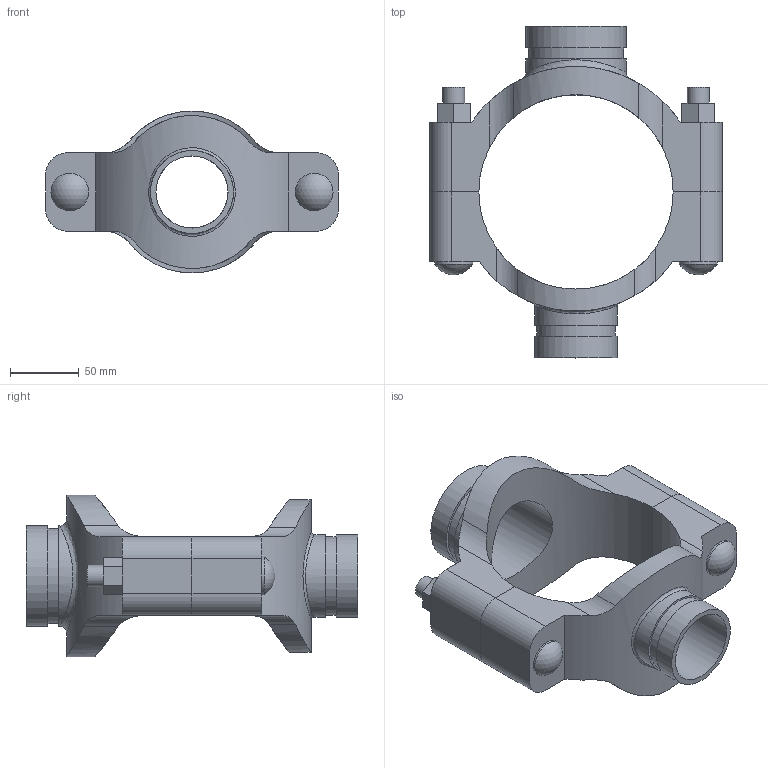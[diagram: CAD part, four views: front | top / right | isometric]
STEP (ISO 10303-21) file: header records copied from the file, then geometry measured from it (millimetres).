
FILE_DESCRIPTION(/* description */ ('VIC MECH-T BRANCH OUTLET CROSS STYLE 920N (GRVD)','CAx-IF Rec.Pracs.---Representation and Presentation of Product Manufacturing Information (PMI)---4.0---2014-10-13'),/* implementation_level */ '2;1');
FILE_NAME(/* name */ 'C:\Users\Vjadhav\AppData\Roaming\Autodesk\ApplicationPlugins\Back Up\Victaulic_IPS_Mechanical-Cross Outlet_Style 920N (OGS)\Victaulic_IPS_Mechanical-Cross Outlet_05.0x02.5x02.0 (125x65x50).stp',/* time_stamp */ '2020-08-06T19:44:22+05:00',/* author */ ('Vjadhav'),/* organization */ ('Victaulic'),/* preprocessor_version */ 'ST-DEVELOPER v17.2',/* originating_system */ 'Autodesk Inventor 2019',/* authorisation */ '');
FILE_SCHEMA (('AP242_MANAGED_MODEL_BASED_3D_ENGINEERING_MIM_LF { 1 0 10303 442 1 1 4 }'));
Length unit declared in the file: inch
Products named in the file (3): 920NG-05.0x02.5x02.0; 920G-05.0x02.5; 920G-05.0x02.0
Assembly tree (2 placements, depth 2):
  920NG-05.0x02.5x02.0
    920G-05.0x02.5
    920G-05.0x02.0
Bounding box: 212.85 x 241.3 x 117.56 mm (x, y, z)
Volume: 880246.2 mm3; surface area: 166678.2 mm2
Topology: 2 solids, 2 shells, 106 faces, 268 edges, 182 vertices
Faces by surface type: plane 54, cylinder 48, sphere 2, bspline 2
Full cylindrical faces by diameter (mm): 15.875 x4, 27.381 x2, 52.387 x1, 57.15 x1, 60.325 x2, 62.738 x1, 69.088 x1, 73.025 x2
Entity records: 4237 total; most frequent: CARTESIAN_POINT 1410, DIRECTION 542, ORIENTED_EDGE 536, EDGE_CURVE 268, AXIS2_PLACEMENT_3D 197, VERTEX_POINT 182, LINE 148, VECTOR 148
